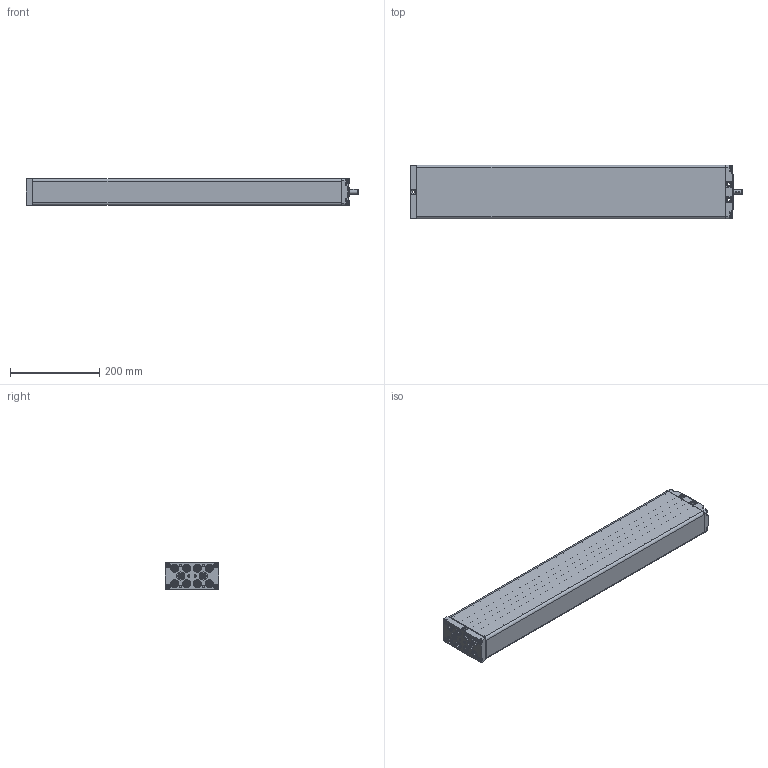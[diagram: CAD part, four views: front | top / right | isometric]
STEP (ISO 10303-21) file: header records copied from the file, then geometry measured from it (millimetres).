
FILE_DESCRIPTION(/* description */ ('Unknown'),/* implementation_level */ '2;1');
FILE_NAME(/* name */ '102.00187 Pumpe PB 0430 W',/* time_stamp */ '2016-11-03T15:50:57+01:00',/* author */ ('Unknown'),/* organization */ ('Unknown'),/* preprocessor_version */ 'ST-DEVELOPER v16.7',/* originating_system */ 'DEX',/* authorisation */ $);
FILE_SCHEMA (('AUTOMOTIVE_DESIGN {1 0 10303 214 3 1 1}'));
Products named in the file (15): 102.00187; 115.10025; 125.00031; 115.00007; 142.00021; 125.00021; 142.00013; 125.00145; 115.00140; 126.00006; 122.00040; 119.00045; 126.00036; 142.00057; 142.00017
Assembly tree (31 placements, depth 3):
  102.00187
    115.10025  x10
      125.00031
      115.00007
      142.00021
      125.00021
    142.00013  x8
    125.00145
    115.00140
      126.00006
      122.00040
    119.00045
    126.00036
    142.00057
    142.00017  x2
Bounding box: 744.5 x 120 x 60.3 mm (x, y, z)
Volume: 901351.6 mm3; surface area: 624275.9 mm2
Topology: 46 solids, 46 shells, 2198 faces, 5020 edges, 2949 vertices
Faces by surface type: plane 771, cylinder 507, cone 377, bspline 377, torus 106, sphere 60
Full cylindrical faces by diameter (mm): 3.5 x10, 4.1 x10, 4.134 x4, 4.2 x10, 4.917 x2, 5 x8, 5.8 x4, 6 x2, 6.8 x1, 6.917 x20, 8 x21, 9 x10, 9.8 x8, 10 x5, 10.4 x1, 10.5 x4, 12.5 x10, 13 x30, 13.9 x20, 14 x1, 18 x11, 19 x1
Entity records: 59909 total; most frequent: CARTESIAN_POINT 28816, ORIENTED_EDGE 5026, DIRECTION 4369, EDGE_CURVE 2513, AXIS2_PLACEMENT_3D 1697, VERTEX_POINT 1584, FACE_BOUND 1391, EDGE_LOOP 1390
